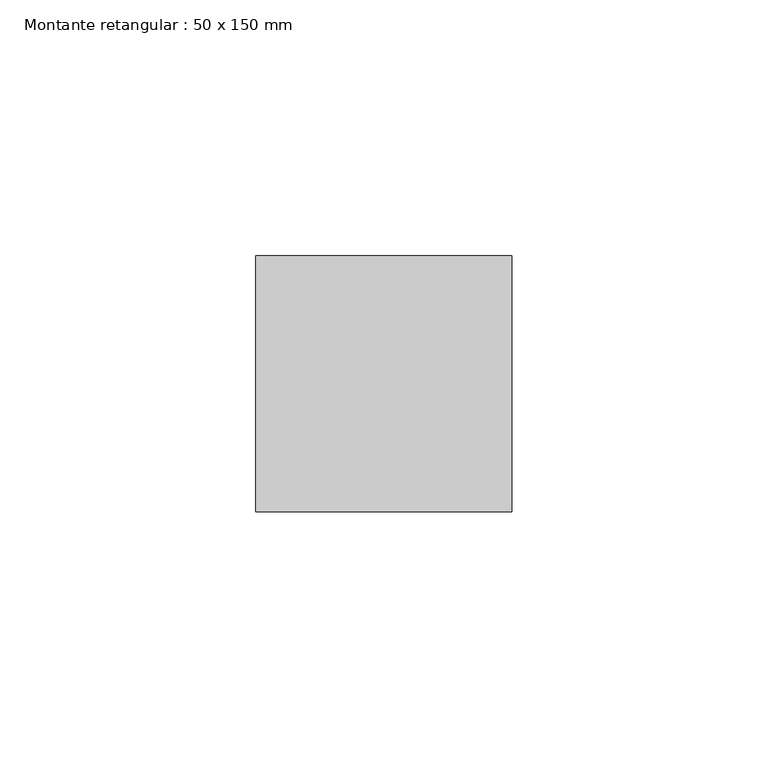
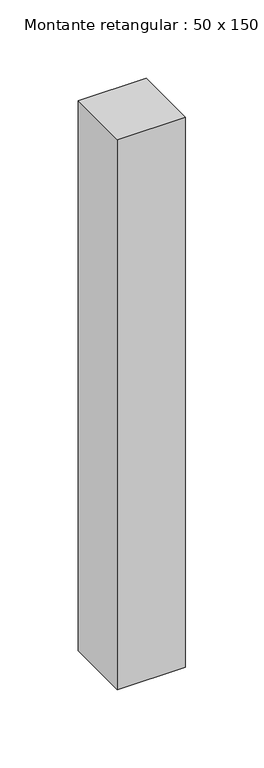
"""IFC4 building model written with IfcOpenShell, lengths in millimetres: member geometry, Montante retangular : 50 x 150 mm."""

from ifc_helpers import new_model, si_unit, frame, origin, place, context, project, spatial, polyline, outline, extrude, source, transform, mapped, element, save


def montante_retangular_50_x_150_mm_a1f3fd0c(model_context):
    return source(origin(), model_context, "Body", "SweptSolid", [
        extrude(outline(polyline([(0.0, 25.0), (0.0, -25.0), (-50.0, -25.0), (-50.0, 25.0), (0.0, 25.0)])), frame((0.0, 0.0, -428.7384909), z_axis=(0.0, 0.0, 1.0), x_axis=(1.0, 0.0, 0.0)), (0.0, 0.0, 1.0), 428.7384909),
    ])


if __name__ == "__main__":
    model = new_model("IFC4")
    model_context = context("Model", 3, world=origin())
    ifc_project = project(units=[si_unit("LENGTHUNIT", "METRE", prefix="MILLI")], contexts=[model_context])
    site = spatial("IfcSite", under=ifc_project)
    building = spatial("IfcBuilding", under=site)
    placement = place(None, origin())
    montante_retangular_50_x_150_mm_shape = montante_retangular_50_x_150_mm_a1f3fd0c(model_context)
    element("IfcMember", 1, ObjectType="Montante retangular : 50 x 150 mm", at=placement, inside=building, context=model_context, shape_type="MappedRepresentation", body=[
        mapped(montante_retangular_50_x_150_mm_shape, transform((0.0, 0.0, 0.0), x_axis=(1.0, 0.0, 0.0), y_axis=(0.0, 1.0, 0.0), z_axis=(0.0, 0.0, 1.0))),
    ])
    save(model, "model.ifc")
